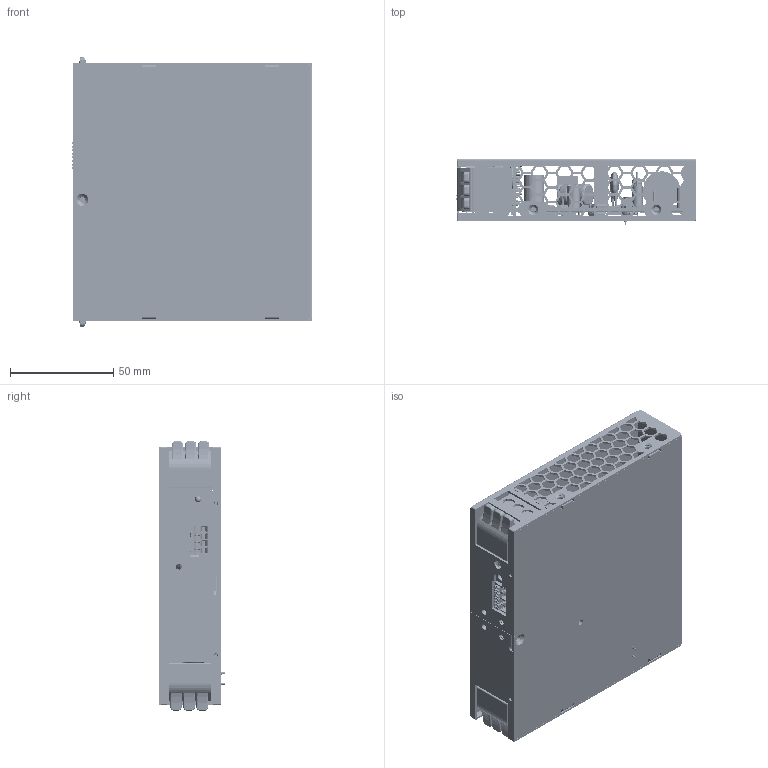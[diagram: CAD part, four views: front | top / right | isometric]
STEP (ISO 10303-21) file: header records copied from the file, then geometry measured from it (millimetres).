
FILE_DESCRIPTION(('Creo Elements/Direct Modeling STEP Export'),'2;1');
FILE_NAME('XDR-75LA.stp','2025-12-18T 9:54:42',(''),(''),'Creo Elements/Direct Modeling STEP processor for AP214 (Solid Model)','Creo Elements/Direct Modeling 19.0G 27-Nov-2017 (C) Parametric Technology GmbH','');
FILE_SCHEMA(('AUTOMOTIVE_DESIGN { 1 0 10303 214 1 1 1 1 }'));
Length unit declared in the file: millimetre
Products named in the file (544): 下盖; 上盖; BOARD.PRT; EXTRUDED-7244.PRT; 1FF2.ASM; TP2.ASM; 1BC1-Y-L140W040-P100.PRT; C130.ASM; C129.ASM; EXTRUDED-14999.PRT; 1414956016.ASM; CYLINDER-17945.PRT; 97072864.ASM; CYLINDER-18137.PRT; 551001048.ASM; CYLINDER-18334.PRT; 97075144.ASM; C110.ASM; TVR10471KFC3FW.PRT; ZNR1.ASM; EXTRUDED-38666.PRT; 1414957136.ASM; EXTRUDED-39038.PRT; 1414956976.ASM.9; CYLINDER-39415.PRT; 550989648.ASM.7; C1.ASM; 550975816_1.PRT; 550975816_2.PRT; 550975816_3.PRT; 550975816_4.PRT; 550975816.ASM; R1.ASM; R2.ASM; TP1.ASM; MPX332H-6358033701_20241005.PRT; TB1.ASM; TB2.ASM; PIN-P7_5_RGB12632256.PRT; CYLINDER-73938.PRT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
Assembly tree (765 placements, depth 8):
  上下盖推杆
    XDR-75A-R0X.step.1.1
      PCB.ASM
        FREE-MODELS.ASM
          PRODUCT_511392.ASM
            FT-63EP_1-704230_PRT.PRT
        HS1.ASM
          1414960016.ASM
            EXTRUDED-511012.PRT
          1414933776.ASM
            EXTRUDED-509704.PRT
          1GG2-MHS059.ASM
            EXTRUDED-505550.PRT
        C131.ASM
          550998920.PRT
        J100.ASM
          550976120.ASM
            550976120_4.PRT
            550976120_3.PRT
            550976120_2.PRT
            550976120_1.PRT
        D133.ASM
          2CDX-SOT23.PRT
        RY1.ASM
          550994816.ASM  x4
            CYLINDER-504856.PRT
          1414953296.ASM
            EXTRUDED-505053.PRT
        TP1A.ASM
          1FF2.ASM
            EXTRUDED-20352.PRT
        RTH2.ASM
          1ARC-SCK-103.ASM
            1ARC-SCK-103_3.PRT
            1ARC-SCK-103_2.PRT
            1ARC-SCK-103_1.PRT
        D12.ASM
          2CDX-SOD323.PRT
        D10.ASM
          647436224.ASM  x2
            EXTRUDED-139824.PRT
          647436064.ASM
            EXTRUDED-139452.PRT
          647435904.ASM
            EXTRUDED-139080.PRT
        D24.ASM
          2CDX-SOD323.PRT
        Q1.ASM
          1414936976.ASM.6  x2
            EXTRUDED-501856.PRT
          1CDX-TO220F-A_AKA_-VT-1_6751473.PRT
          1CDX-TO220F-A_AKA_-VT-1.ASM
            EXTRUDED-494439.PRT
        LED1.ASM
          1CDC-LEDD3GC.ASM
            SW3DPS-LEDD3GC_OPEN_CASCADE_STE.ASM
              SW3DPS-LEDD3GC_355255760.ASM
                SW3DPS-LEDD3GC_EXTRUDED2.PRT
              SW3DPS-LEDD3GC_355027936.ASM
                SW3DPS-LEDD3GC_CYLINDER.PRT
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Bounding box: 116.6 x 32.3 x 130.66 mm (x, y, z)
Volume: 152092 mm3; surface area: 161256.6 mm2
Topology: 630 solids, 634 shells, 17462 faces, 45667 edges, 29906 vertices
Faces by surface type: plane 10263, extrusion 3782, cylinder 2551, sphere 381, torus 296, bspline 120, cone 54, revolution 15
Entity records: 280171 total; most frequent: CARTESIAN_POINT 79729, ORIENTED_EDGE 36824, DIRECTION 32838, EDGE_CURVE 18460, VECTOR 13563, LINE 12876, VERTEX_POINT 12160, AXIS2_PLACEMENT_3D 9630
